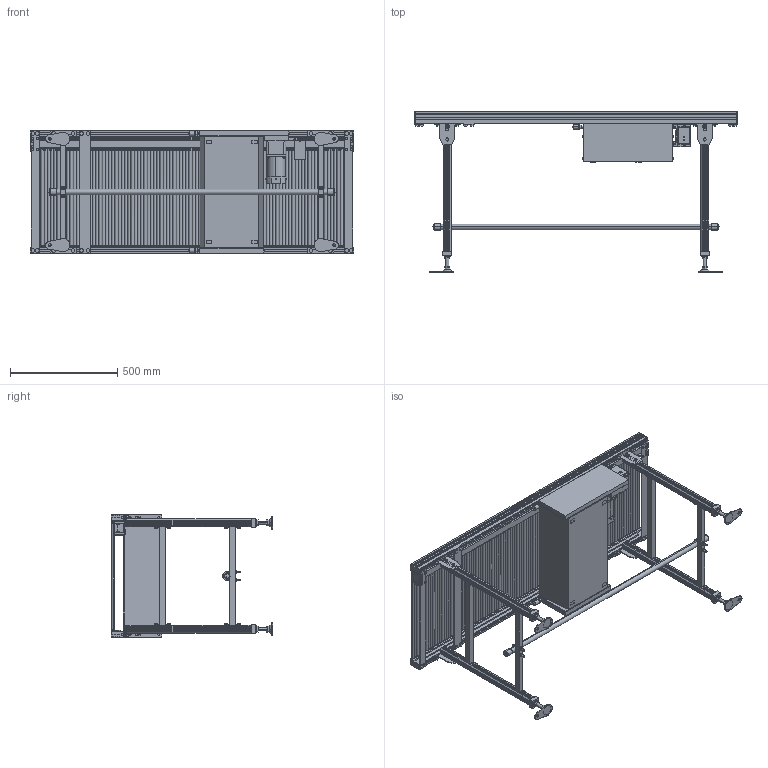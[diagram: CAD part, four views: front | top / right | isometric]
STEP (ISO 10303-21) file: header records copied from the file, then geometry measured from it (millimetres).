
FILE_DESCRIPTION( (''), '2;1');
FILE_NAME ('MRAN1-309-500-150-K-180-O.stp','2025-02-17T14:08:52',(''),(''),'spGate 20.6.2 (****-****-****-****)','','');
FILE_SCHEMA (('AUTOMOTIVE_DESIGN'));
Length unit declared in the file: millimetre
Products named in the file (50): NewModel; MRAN1-309-500-150-K-180-O; TEMP_X_T-prt0; TEMP_X_T-prt1; TEMP_X_T-prt2; TEMP_X_T-prt3; TEMP_X_T-prt4; TEMP_X_T-prt5; TEMP_X_T-prt6; TEMP_X_T-prt7; TEMP_X_T-prt8; TEMP_X_T-prt9; TEMP_X_T-prt10; TEMP_X_T-prt11; TEMP_X_T-prt12; TEMP_X_T-prt13; TEMP_X_T-prt14; TEMP_X_T-prt15; TEMP_X_T-prt16; TEMP_X_T-prt17; TEMP_X_T-prt18; TEMP_X_T-prt19; TEMP_X_T-prt20; TEMP_X_T-prt21; TEMP_X_T-prt22; TEMP_X_T-prt23; TEMP_X_T-prt24; TEMP_X_T-prt25; TEMP_X_T-prt26; TEMP_X_T-prt27; TEMP_X_T-prt28; TEMP_X_T-prt29; TEMP_X_T-prt30; TEMP_X_T-prt31; TEMP_X_T-prt32; TEMP_X_T-prt33; TEMP_X_T-prt34; TEMP_X_T-prt35; TEMP_X_T-prt36; TEMP_X_T-prt37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
Assembly tree (49 placements, depth 3):
  NewModel
    MRAN1-309-500-150-K-180-O
      TEMP_X_T-prt0
      TEMP_X_T-prt1
      TEMP_X_T-prt2
      TEMP_X_T-prt3
      TEMP_X_T-prt4
      TEMP_X_T-prt5
      TEMP_X_T-prt6
      TEMP_X_T-prt7
      TEMP_X_T-prt8
      TEMP_X_T-prt9
      TEMP_X_T-prt10
      TEMP_X_T-prt11
      TEMP_X_T-prt12
      TEMP_X_T-prt13
      TEMP_X_T-prt14
      TEMP_X_T-prt15
      TEMP_X_T-prt16
      TEMP_X_T-prt17
      TEMP_X_T-prt18
      TEMP_X_T-prt19
      TEMP_X_T-prt20
      TEMP_X_T-prt21
      TEMP_X_T-prt22
      TEMP_X_T-prt23
      TEMP_X_T-prt24
      TEMP_X_T-prt25
      TEMP_X_T-prt26
      TEMP_X_T-prt27
      TEMP_X_T-prt28
      TEMP_X_T-prt29
      TEMP_X_T-prt30
      TEMP_X_T-prt31
      TEMP_X_T-prt32
      TEMP_X_T-prt33
      TEMP_X_T-prt34
      TEMP_X_T-prt35
      TEMP_X_T-prt36
      TEMP_X_T-prt37
      TEMP_X_T-prt38
      TEMP_X_T-prt39
      TEMP_X_T-prt40
      TEMP_X_T-prt41
      TEMP_X_T-prt42
      TEMP_X_T-prt43
      TEMP_X_T-prt44
      TEMP_X_T-prt45
      TEMP_X_T-prt46
      TEMP_X_T-prt47
Bounding box: 1510 x 751.5 x 570 mm (x, y, z)
Volume: 47339203.6 mm3; surface area: 5265558 mm2
Topology: 48 solids, 48 shells, 3341 faces, 8580 edges, 5608 vertices
Faces by surface type: plane 1996, cylinder 1147, bspline 194, sphere 4
Entity records: 173506 total; most frequent: CARTESIAN_POINT 22195, ORIENTED_EDGE 17120, DIRECTION 16716, COLOUR_RGB 11949, PRESENTATION_STYLE_ASSIGNMENT 11949, STYLED_ITEM 11949, EDGE_CURVE 8560, DRAUGHTING_PRE_DEFINED_CURVE_FONT 8560
